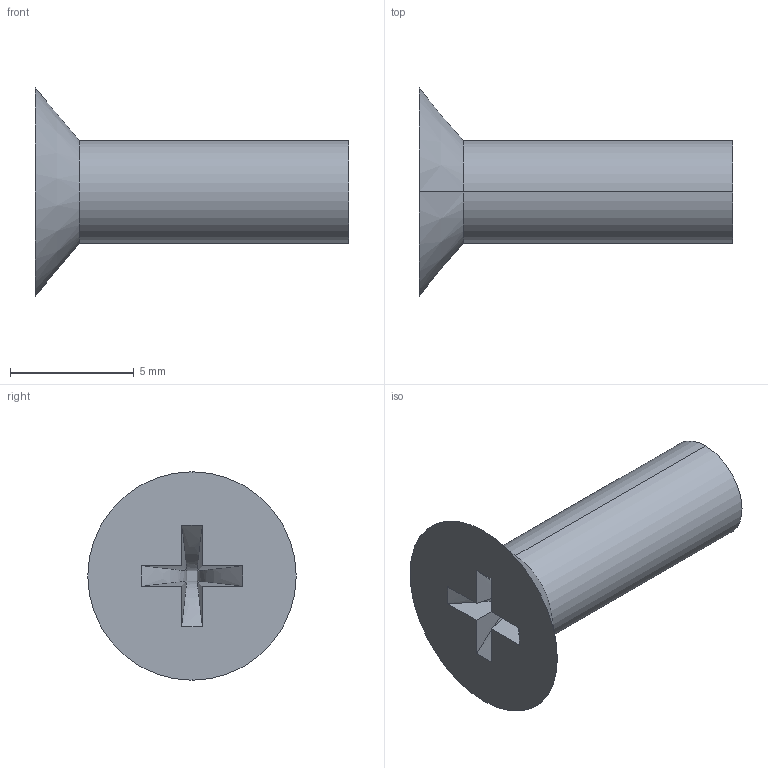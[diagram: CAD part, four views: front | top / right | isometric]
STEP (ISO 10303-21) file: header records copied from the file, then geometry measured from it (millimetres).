
FILE_DESCRIPTION (( 'STEP AP203' ), '1' );
FILE_NAME ('SCREW-FLAT-832-0500.STEP', '2007-08-25T21:57:32', ( 'Innovation First, Inc.' ), ( 'Innovation First, Inc.' ), 'SwSTEP 2.0', 'SolidWorks 2006052', '' );
FILE_SCHEMA (( 'CONFIG_CONTROL_DESIGN' ));
Length unit declared in the file: inch
Products named in the file (1): SCREW-FLAT-832-0500
Bounding box: 12.7 x 8.43 x 8.43 mm (x, y, z)
Volume: 201.5 mm3; surface area: 281.6 mm2
Topology: 1 solids, 1 shells, 19 faces, 38 edges, 22 vertices
Faces by surface type: bspline 12, plane 3, cone 2, cylinder 2
Entity records: 721 total; most frequent: CARTESIAN_POINT 304, ORIENTED_EDGE 76, DIRECTION 48, EDGE_CURVE 38, VERTEX_POINT 22, LINE 20, VECTOR 20, EDGE_LOOP 20
